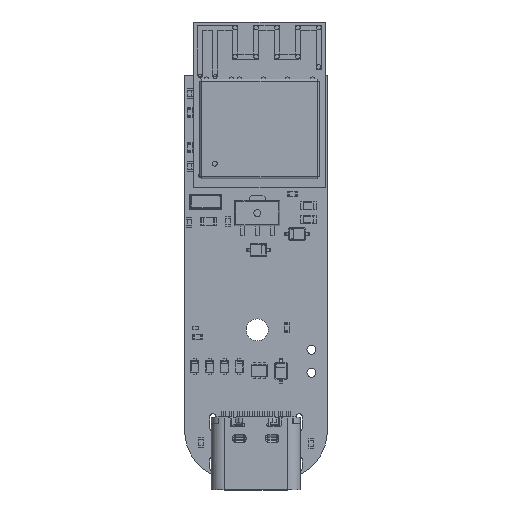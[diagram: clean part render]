
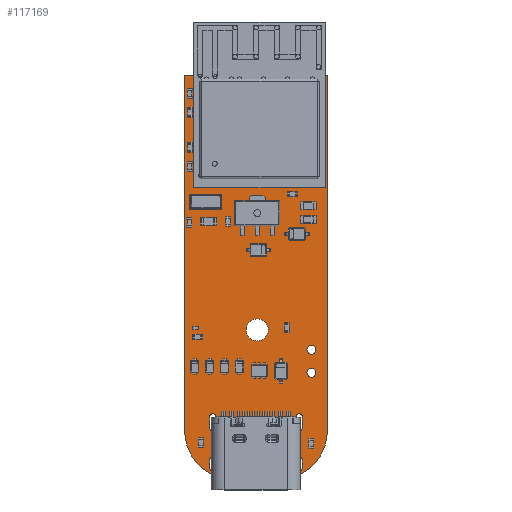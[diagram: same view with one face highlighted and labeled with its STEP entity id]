
A CAD part, top view. The second image highlights one B-rep face of the part: STEP entity #117169.
In plain terms, the highlighted planar face has unit normal (0, 0, 1).
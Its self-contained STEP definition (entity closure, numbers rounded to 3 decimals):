
#116839 = VERTEX_POINT('',#116840);
#116840 = CARTESIAN_POINT('',(108.1,-64.6,0.6));
#116846 = EDGE_CURVE('',#116839,#116847,#116849,.T.);
#116847 = VERTEX_POINT('',#116848);
#116848 = CARTESIAN_POINT('',(103.1,-69.6,0.6));
#116849 = CIRCLE('',#116850,5.);
#116850 = AXIS2_PLACEMENT_3D('',#116851,#116852,#116853);
#116851 = CARTESIAN_POINT('',(103.1,-64.6,0.6));
#116852 = DIRECTION('',(0.,0.,-1.));
#116853 = DIRECTION('',(1.,0.,0.));
#116881 = VERTEX_POINT('',#116882);
#116882 = CARTESIAN_POINT('',(108.1,-29.1,0.6));
#116888 = EDGE_CURVE('',#116881,#116839,#116889,.T.);
#116889 = LINE('',#116890,#116891);
#116890 = CARTESIAN_POINT('',(108.1,-29.1,0.6));
#116891 = VECTOR('',#116892,1.);
#116892 = DIRECTION('',(0.,-1.,0.));
#116910 = EDGE_CURVE('',#116847,#116911,#116913,.T.);
#116911 = VERTEX_POINT('',#116912);
#116912 = CARTESIAN_POINT('',(98.8,-69.6,0.6));
#116913 = LINE('',#116914,#116915);
#116914 = CARTESIAN_POINT('',(103.1,-69.6,0.6));
#116915 = VECTOR('',#116916,1.);
#116916 = DIRECTION('',(-1.,0.,0.));
#117169 = ADVANCED_FACE('',(#117170,#117198,#117234,#117270,#117281,
    #117317,#117328,#117364,#117375,#117386),#117397,.T.);
#117170 = FACE_BOUND('',#117171,.T.);
#117171 = EDGE_LOOP('',(#117172,#117173,#117174,#117182,#117190,#117197)
  );
#117172 = ORIENTED_EDGE('',*,*,#116846,.F.);
#117173 = ORIENTED_EDGE('',*,*,#116888,.F.);
#117174 = ORIENTED_EDGE('',*,*,#117175,.F.);
#117175 = EDGE_CURVE('',#117176,#116881,#117178,.T.);
#117176 = VERTEX_POINT('',#117177);
#117177 = CARTESIAN_POINT('',(93.8,-29.1,0.6));
#117178 = LINE('',#117179,#117180);
#117179 = CARTESIAN_POINT('',(93.8,-29.1,0.6));
#117180 = VECTOR('',#117181,1.);
#117181 = DIRECTION('',(1.,0.,0.));
#117182 = ORIENTED_EDGE('',*,*,#117183,.F.);
#117183 = EDGE_CURVE('',#117184,#117176,#117186,.T.);
#117184 = VERTEX_POINT('',#117185);
#117185 = CARTESIAN_POINT('',(93.8,-64.6,0.6));
#117186 = LINE('',#117187,#117188);
#117187 = CARTESIAN_POINT('',(93.8,-64.6,0.6));
#117188 = VECTOR('',#117189,1.);
#117189 = DIRECTION('',(0.,1.,0.));
#117190 = ORIENTED_EDGE('',*,*,#117191,.F.);
#117191 = EDGE_CURVE('',#116911,#117184,#117192,.T.);
#117192 = CIRCLE('',#117193,5.);
#117193 = AXIS2_PLACEMENT_3D('',#117194,#117195,#117196);
#117194 = CARTESIAN_POINT('',(98.8,-64.6,0.6));
#117195 = DIRECTION('',(0.,0.,-1.));
#117196 = DIRECTION('',(0.,-1.,0.));
#117197 = ORIENTED_EDGE('',*,*,#116910,.F.);
#117198 = FACE_BOUND('',#117199,.T.);
#117199 = EDGE_LOOP('',(#117200,#117211,#117219,#117228));
#117200 = ORIENTED_EDGE('',*,*,#117201,.T.);
#117201 = EDGE_CURVE('',#117202,#117204,#117206,.T.);
#117202 = VERTEX_POINT('',#117203);
#117203 = CARTESIAN_POINT('',(96.925,-68.37,0.6));
#117204 = VERTEX_POINT('',#117205);
#117205 = CARTESIAN_POINT('',(96.325,-68.37,0.6));
#117206 = CIRCLE('',#117207,0.3);
#117207 = AXIS2_PLACEMENT_3D('',#117208,#117209,#117210);
#117208 = CARTESIAN_POINT('',(96.625,-68.37,0.6));
#117209 = DIRECTION('',(-0.,0.,-1.));
#117210 = DIRECTION('',(-1.,0.,0.));
#117211 = ORIENTED_EDGE('',*,*,#117212,.T.);
#117212 = EDGE_CURVE('',#117204,#117213,#117215,.T.);
#117213 = VERTEX_POINT('',#117214);
#117214 = CARTESIAN_POINT('',(96.325,-67.57,0.6));
#117215 = LINE('',#117216,#117217);
#117216 = CARTESIAN_POINT('',(96.325,-33.785,0.6));
#117217 = VECTOR('',#117218,1.);
#117218 = DIRECTION('',(-0.,1.,0.));
#117219 = ORIENTED_EDGE('',*,*,#117220,.T.);
#117220 = EDGE_CURVE('',#117213,#117221,#117223,.T.);
#117221 = VERTEX_POINT('',#117222);
#117222 = CARTESIAN_POINT('',(96.925,-67.57,0.6));
#117223 = CIRCLE('',#117224,0.3);
#117224 = AXIS2_PLACEMENT_3D('',#117225,#117226,#117227);
#117225 = CARTESIAN_POINT('',(96.625,-67.57,0.6));
#117226 = DIRECTION('',(0.,-0.,-1.));
#117227 = DIRECTION('',(1.,0.,-0.));
#117228 = ORIENTED_EDGE('',*,*,#117229,.T.);
#117229 = EDGE_CURVE('',#117221,#117202,#117230,.T.);
#117230 = LINE('',#117231,#117232);
#117231 = CARTESIAN_POINT('',(96.925,-34.185,0.6));
#117232 = VECTOR('',#117233,1.);
#117233 = DIRECTION('',(0.,-1.,0.));
#117234 = FACE_BOUND('',#117235,.T.);
#117235 = EDGE_LOOP('',(#117236,#117247,#117255,#117264));
#117236 = ORIENTED_EDGE('',*,*,#117237,.T.);
#117237 = EDGE_CURVE('',#117238,#117240,#117242,.T.);
#117238 = VERTEX_POINT('',#117239);
#117239 = CARTESIAN_POINT('',(96.925,-64.37,0.6));
#117240 = VERTEX_POINT('',#117241);
#117241 = CARTESIAN_POINT('',(96.325,-64.37,0.6));
#117242 = CIRCLE('',#117243,0.3);
#117243 = AXIS2_PLACEMENT_3D('',#117244,#117245,#117246);
#117244 = CARTESIAN_POINT('',(96.625,-64.37,0.6));
#117245 = DIRECTION('',(-0.,0.,-1.));
#117246 = DIRECTION('',(-1.,0.,0.));
#117247 = ORIENTED_EDGE('',*,*,#117248,.T.);
#117248 = EDGE_CURVE('',#117240,#117249,#117251,.T.);
#117249 = VERTEX_POINT('',#117250);
#117250 = CARTESIAN_POINT('',(96.325,-63.27,0.6));
#117251 = LINE('',#117252,#117253);
#117252 = CARTESIAN_POINT('',(96.325,-31.635,0.6));
#117253 = VECTOR('',#117254,1.);
#117254 = DIRECTION('',(-0.,1.,0.));
#117255 = ORIENTED_EDGE('',*,*,#117256,.T.);
#117256 = EDGE_CURVE('',#117249,#117257,#117259,.T.);
#117257 = VERTEX_POINT('',#117258);
#117258 = CARTESIAN_POINT('',(96.925,-63.27,0.6));
#117259 = CIRCLE('',#117260,0.3);
#117260 = AXIS2_PLACEMENT_3D('',#117261,#117262,#117263);
#117261 = CARTESIAN_POINT('',(96.625,-63.27,0.6));
#117262 = DIRECTION('',(0.,-0.,-1.));
#117263 = DIRECTION('',(1.,0.,-0.));
#117264 = ORIENTED_EDGE('',*,*,#117265,.T.);
#117265 = EDGE_CURVE('',#117257,#117238,#117266,.T.);
#117266 = LINE('',#117267,#117268);
#117267 = CARTESIAN_POINT('',(96.925,-32.185,0.6));
#117268 = VECTOR('',#117269,1.);
#117269 = DIRECTION('',(0.,-1.,0.));
#117270 = FACE_BOUND('',#117271,.T.);
#117271 = EDGE_LOOP('',(#117272));
#117272 = ORIENTED_EDGE('',*,*,#117273,.T.);
#117273 = EDGE_CURVE('',#117274,#117274,#117276,.T.);
#117274 = VERTEX_POINT('',#117275);
#117275 = CARTESIAN_POINT('',(98.06,-64.645,0.6));
#117276 = CIRCLE('',#117277,0.325);
#117277 = AXIS2_PLACEMENT_3D('',#117278,#117279,#117280);
#117278 = CARTESIAN_POINT('',(98.06,-64.32,0.6));
#117279 = DIRECTION('',(-0.,0.,-1.));
#117280 = DIRECTION('',(-0.,-1.,0.));
#117281 = FACE_BOUND('',#117282,.T.);
#117282 = EDGE_LOOP('',(#117283,#117294,#117302,#117311));
#117283 = ORIENTED_EDGE('',*,*,#117284,.T.);
#117284 = EDGE_CURVE('',#117285,#117287,#117289,.T.);
#117285 = VERTEX_POINT('',#117286);
#117286 = CARTESIAN_POINT('',(105.575,-68.37,0.6));
#117287 = VERTEX_POINT('',#117288);
#117288 = CARTESIAN_POINT('',(104.975,-68.37,0.6));
#117289 = CIRCLE('',#117290,0.3);
#117290 = AXIS2_PLACEMENT_3D('',#117291,#117292,#117293);
#117291 = CARTESIAN_POINT('',(105.275,-68.37,0.6));
#117292 = DIRECTION('',(-0.,0.,-1.));
#117293 = DIRECTION('',(-1.,0.,0.));
#117294 = ORIENTED_EDGE('',*,*,#117295,.T.);
#117295 = EDGE_CURVE('',#117287,#117296,#117298,.T.);
#117296 = VERTEX_POINT('',#117297);
#117297 = CARTESIAN_POINT('',(104.975,-67.57,0.6));
#117298 = LINE('',#117299,#117300);
#117299 = CARTESIAN_POINT('',(104.975,-33.785,0.6));
#117300 = VECTOR('',#117301,1.);
#117301 = DIRECTION('',(-0.,1.,0.));
#117302 = ORIENTED_EDGE('',*,*,#117303,.T.);
#117303 = EDGE_CURVE('',#117296,#117304,#117306,.T.);
#117304 = VERTEX_POINT('',#117305);
#117305 = CARTESIAN_POINT('',(105.575,-67.57,0.6));
#117306 = CIRCLE('',#117307,0.3);
#117307 = AXIS2_PLACEMENT_3D('',#117308,#117309,#117310);
#117308 = CARTESIAN_POINT('',(105.275,-67.57,0.6));
#117309 = DIRECTION('',(0.,-0.,-1.));
#117310 = DIRECTION('',(1.,0.,-0.));
#117311 = ORIENTED_EDGE('',*,*,#117312,.T.);
#117312 = EDGE_CURVE('',#117304,#117285,#117313,.T.);
#117313 = LINE('',#117314,#117315);
#117314 = CARTESIAN_POINT('',(105.575,-34.185,0.6));
#117315 = VECTOR('',#117316,1.);
#117316 = DIRECTION('',(0.,-1.,0.));
#117317 = FACE_BOUND('',#117318,.T.);
#117318 = EDGE_LOOP('',(#117319));
#117319 = ORIENTED_EDGE('',*,*,#117320,.T.);
#117320 = EDGE_CURVE('',#117321,#117321,#117323,.T.);
#117321 = VERTEX_POINT('',#117322);
#117322 = CARTESIAN_POINT('',(103.84,-64.645,0.6));
#117323 = CIRCLE('',#117324,0.325);
#117324 = AXIS2_PLACEMENT_3D('',#117325,#117326,#117327);
#117325 = CARTESIAN_POINT('',(103.84,-64.32,0.6));
#117326 = DIRECTION('',(-0.,0.,-1.));
#117327 = DIRECTION('',(-0.,-1.,0.));
#117328 = FACE_BOUND('',#117329,.T.);
#117329 = EDGE_LOOP('',(#117330,#117341,#117349,#117358));
#117330 = ORIENTED_EDGE('',*,*,#117331,.T.);
#117331 = EDGE_CURVE('',#117332,#117334,#117336,.T.);
#117332 = VERTEX_POINT('',#117333);
#117333 = CARTESIAN_POINT('',(105.575,-64.37,0.6));
#117334 = VERTEX_POINT('',#117335);
#117335 = CARTESIAN_POINT('',(104.975,-64.37,0.6));
#117336 = CIRCLE('',#117337,0.3);
#117337 = AXIS2_PLACEMENT_3D('',#117338,#117339,#117340);
#117338 = CARTESIAN_POINT('',(105.275,-64.37,0.6));
#117339 = DIRECTION('',(-0.,0.,-1.));
#117340 = DIRECTION('',(-1.,0.,0.));
#117341 = ORIENTED_EDGE('',*,*,#117342,.T.);
#117342 = EDGE_CURVE('',#117334,#117343,#117345,.T.);
#117343 = VERTEX_POINT('',#117344);
#117344 = CARTESIAN_POINT('',(104.975,-63.27,0.6));
#117345 = LINE('',#117346,#117347);
#117346 = CARTESIAN_POINT('',(104.975,-31.635,0.6));
#117347 = VECTOR('',#117348,1.);
#117348 = DIRECTION('',(-0.,1.,0.));
#117349 = ORIENTED_EDGE('',*,*,#117350,.T.);
#117350 = EDGE_CURVE('',#117343,#117351,#117353,.T.);
#117351 = VERTEX_POINT('',#117352);
#117352 = CARTESIAN_POINT('',(105.575,-63.27,0.6));
#117353 = CIRCLE('',#117354,0.3);
#117354 = AXIS2_PLACEMENT_3D('',#117355,#117356,#117357);
#117355 = CARTESIAN_POINT('',(105.275,-63.27,0.6));
#117356 = DIRECTION('',(0.,-0.,-1.));
#117357 = DIRECTION('',(1.,0.,-0.));
#117358 = ORIENTED_EDGE('',*,*,#117359,.T.);
#117359 = EDGE_CURVE('',#117351,#117332,#117360,.T.);
#117360 = LINE('',#117361,#117362);
#117361 = CARTESIAN_POINT('',(105.575,-32.185,0.6));
#117362 = VECTOR('',#117363,1.);
#117363 = DIRECTION('',(0.,-1.,0.));
#117364 = FACE_BOUND('',#117365,.T.);
#117365 = EDGE_LOOP('',(#117366));
#117366 = ORIENTED_EDGE('',*,*,#117367,.T.);
#117367 = EDGE_CURVE('',#117368,#117368,#117370,.T.);
#117368 = VERTEX_POINT('',#117369);
#117369 = CARTESIAN_POINT('',(101.08,-55.68,0.6));
#117370 = CIRCLE('',#117371,1.1);
#117371 = AXIS2_PLACEMENT_3D('',#117372,#117373,#117374);
#117372 = CARTESIAN_POINT('',(101.08,-54.58,0.6));
#117373 = DIRECTION('',(-0.,0.,-1.));
#117374 = DIRECTION('',(0.,-1.,0.));
#117375 = FACE_BOUND('',#117376,.T.);
#117376 = EDGE_LOOP('',(#117377));
#117377 = ORIENTED_EDGE('',*,*,#117378,.T.);
#117378 = EDGE_CURVE('',#117379,#117379,#117381,.T.);
#117379 = VERTEX_POINT('',#117380);
#117380 = CARTESIAN_POINT('',(106.5,-59.3,0.6));
#117381 = CIRCLE('',#117382,0.45);
#117382 = AXIS2_PLACEMENT_3D('',#117383,#117384,#117385);
#117383 = CARTESIAN_POINT('',(106.5,-58.85,0.6));
#117384 = DIRECTION('',(-0.,0.,-1.));
#117385 = DIRECTION('',(-0.,-1.,0.));
#117386 = FACE_BOUND('',#117387,.T.);
#117387 = EDGE_LOOP('',(#117388));
#117388 = ORIENTED_EDGE('',*,*,#117389,.T.);
#117389 = EDGE_CURVE('',#117390,#117390,#117392,.T.);
#117390 = VERTEX_POINT('',#117391);
#117391 = CARTESIAN_POINT('',(106.5,-57.,0.6));
#117392 = CIRCLE('',#117393,0.45);
#117393 = AXIS2_PLACEMENT_3D('',#117394,#117395,#117396);
#117394 = CARTESIAN_POINT('',(106.5,-56.55,0.6));
#117395 = DIRECTION('',(-0.,0.,-1.));
#117396 = DIRECTION('',(-0.,-1.,0.));
#117397 = PLANE('',#117398);
#117398 = AXIS2_PLACEMENT_3D('',#117399,#117400,#117401);
#117399 = CARTESIAN_POINT('',(0.,0.,0.6));
#117400 = DIRECTION('',(0.,0.,1.));
#117401 = DIRECTION('',(1.,0.,-0.));
